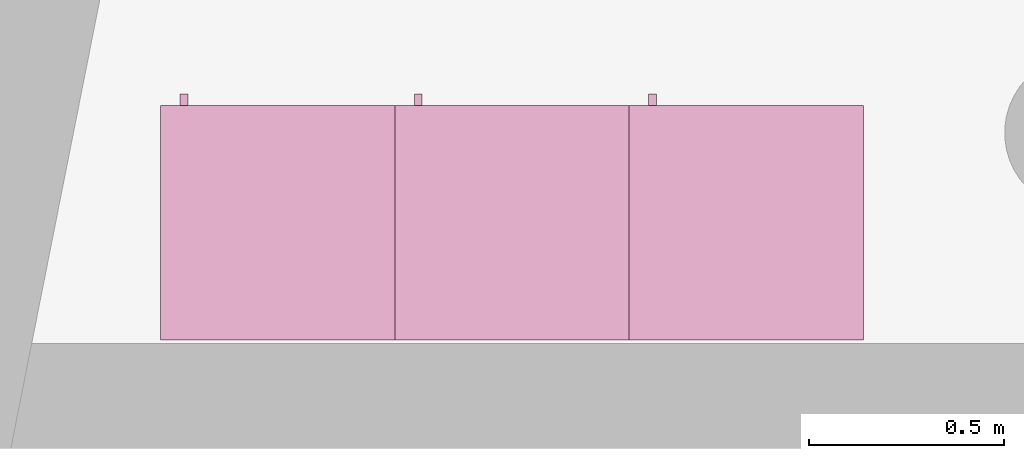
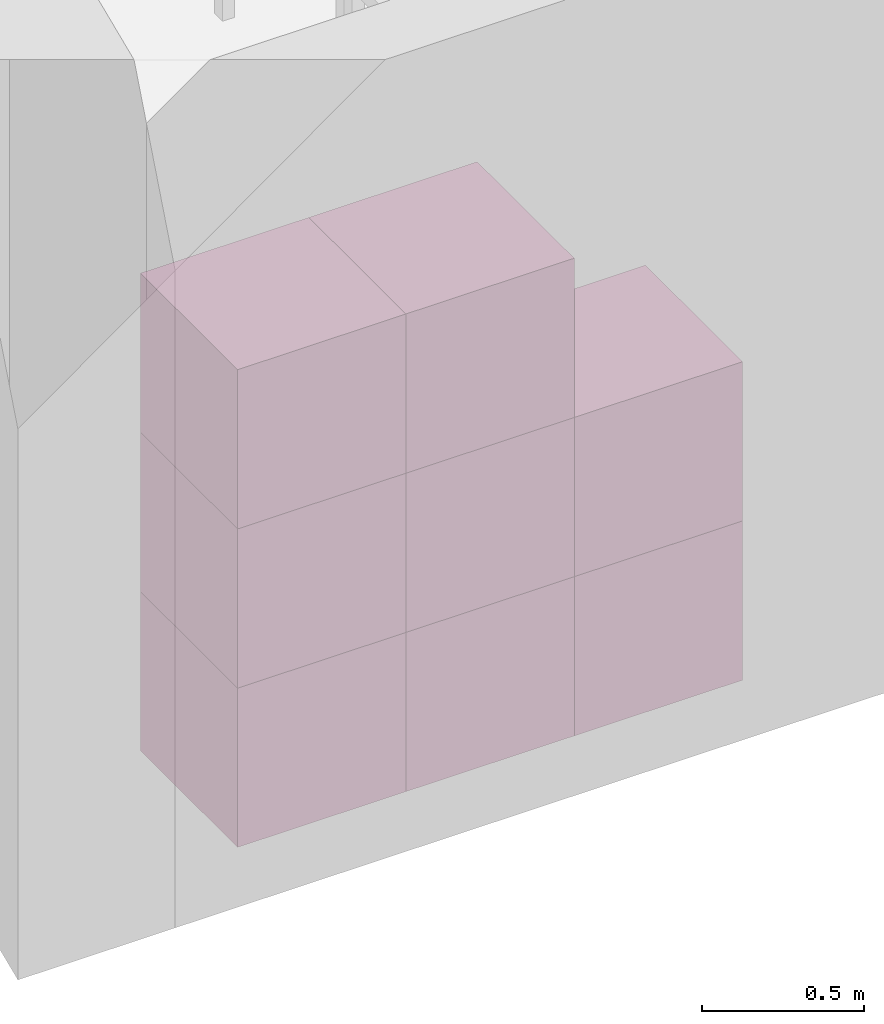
"""IFC4 building model written with IfcOpenShell, lengths in metres."""

from ifc_helpers import new_model, entity, si_unit, converted_unit, derived_unit, frame, origin, place, context, subcontext, project, spatial, faceted_brep, element, save


model = new_model("IFC4")

# Units and contexts
model_context = context("Model", 3, precision=1e-05, world=origin())
body_context = subcontext(model_context, "Body", "Model", "MODEL_VIEW")
ifc_project = project(units=[si_unit("LENGTHUNIT", "METRE"), si_unit("AREAUNIT", "SQUARE_METRE"), si_unit("VOLUMEUNIT", "CUBIC_METRE"), si_unit("MASSUNIT", "GRAM", prefix="KILO"), converted_unit("PLANEANGLEUNIT", "DEGREE", entity("IfcPlaneAngleMeasure", 0.0174532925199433), si_unit("PLANEANGLEUNIT", "RADIAN"), dimensions=[0, 0, 0, 0, 0, 0, 0]), derived_unit("THERMALTRANSMITTANCEUNIT", [(si_unit("POWERUNIT", "WATT"), 1), (si_unit("THERMODYNAMICTEMPERATUREUNIT", "KELVIN"), -1), (si_unit("LENGTHUNIT", "METRE"), -2)]), derived_unit("VOLUMETRICFLOWRATEUNIT", [(si_unit("LENGTHUNIT", "METRE"), 3), (converted_unit("TIMEUNIT", "hour", entity("IfcTimeMeasure", 3600.0), si_unit("TIMEUNIT", "SECOND"), dimensions=[0, 0, 1, 0, 0, 0, 0]), -1), (si_unit("LENGTHUNIT", "METRE"), -1)])], contexts=[model_context])

# Building, storeys
building_placement = place(None, origin())
building = spatial("IfcBuilding", under=ifc_project, at=building_placement, Name="HABITATGE PLURIFAMILIAR", CompositionType="ELEMENT")
storey_1_placement = place(building_placement, frame((0.0, 0.0, 15.28)))
storey_1 = spatial("IfcBuildingStorey", under=building, at=storey_1_placement, Name="PLANTA QUARTA", CompositionType="ELEMENT", Elevation=15.28)
storey_2_placement = place(storey_1_placement, frame((0.0, 0.0, 12.27)))
storey_2 = spatial("IfcBuildingStorey", under=storey_1, at=storey_2_placement, Name="NOU", CompositionType="PARTIAL")

# Furniture
furniture_1_placement = place(storey_2_placement, frame((399.82527037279, 13.1194598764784, -12.37)))
element("IfcFurniture", 1, at=furniture_1_placement, inside=storey_2, Name="Armai 60x60x60_P4", context=body_context, shape_type="Brep", body=[
    faceted_brep([(0.0, 0.6, 0.02), (0.0, 0.6, 0.0), (0.6, 0.6, 0.0), (0.6, 0.6, 0.02), (0.6, 0.0, 0.0), (0.6, 0.0, 0.02), (0.0, 0.0, 0.0), (0.0, 0.0, 0.02)], [[[0, 1, 2, 3]], [[3, 2, 4, 5]], [[5, 4, 6, 7]], [[7, 6, 1, 0]], [[0, 3, 5, 7]], [[1, 6, 4, 2]]], orient=[[False], [False], [False], [False], [False], [False]]),
    faceted_brep([(0.580000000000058, 0.0, 0.58), (0.580000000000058, 0.0200000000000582, 0.58), (0.580000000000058, 0.0200000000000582, 0.02), (0.580000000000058, 0.0, 0.02), (0.0200000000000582, 0.0200000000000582, 0.02), (0.0200000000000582, 0.0, 0.02), (0.0200000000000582, 0.0200000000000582, 0.58), (0.0200000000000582, 0.0, 0.58)], [[[0, 1, 2, 3]], [[3, 2, 4, 5]], [[5, 4, 6, 7]], [[7, 6, 1, 0]], [[0, 3, 5, 7]], [[1, 6, 4, 2]]], orient=[[False], [False], [False], [False], [False], [False]]),
    faceted_brep([(0.0200000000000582, 0.6, 0.58), (0.0, 0.6, 0.58), (0.0, 0.6, 0.02), (0.0200000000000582, 0.6, 0.02), (0.0, 0.0, 0.02), (0.0200000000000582, 0.0, 0.02), (0.0, 0.0, 0.58), (0.0200000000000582, 0.0, 0.58)], [[[0, 1, 2, 3]], [[3, 2, 4, 5]], [[5, 4, 6, 7]], [[7, 6, 1, 0]], [[0, 3, 5, 7]], [[1, 6, 4, 2]]], orient=[[False], [False], [False], [False], [False], [False]]),
    faceted_brep([(0.0, 0.58, 0.58), (0.0, 0.6, 0.58), (0.0, 0.6, 0.02), (0.0, 0.58, 0.02), (0.02, 0.6, 0.02), (0.02, 0.58, 0.02), (0.02, 0.6, 0.58), (0.02, 0.58, 0.58)], [[[0, 1, 2, 3]], [[3, 2, 4, 5]], [[5, 4, 6, 7]], [[7, 6, 1, 0]], [[0, 3, 5, 7]], [[1, 6, 4, 2]]], orient=[[False], [False], [False], [False], [False], [False]]),
    faceted_brep([(0.6, 0.6, 0.58), (0.58, 0.6, 0.58), (0.58, 0.6, 0.02), (0.6, 0.6, 0.02), (0.58, 0.0, 0.02), (0.6, 0.0, 0.02), (0.58, 0.0, 0.58), (0.6, 0.0, 0.58)], [[[0, 1, 2, 3]], [[3, 2, 4, 5]], [[5, 4, 6, 7]], [[7, 6, 1, 0]], [[0, 3, 5, 7]], [[1, 6, 4, 2]]], orient=[[False], [False], [False], [False], [False], [False]]),
    faceted_brep([(0.0, 0.600000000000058, 0.6), (0.0, 0.600000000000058, 0.58), (0.600000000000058, 0.600000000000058, 0.58), (0.600000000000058, 0.600000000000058, 0.6), (0.600000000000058, 0.0, 0.58), (0.600000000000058, 0.0, 0.6), (0.0, 0.0, 0.58), (0.0, 0.0, 0.6)], [[[0, 1, 2, 3]], [[3, 2, 4, 5]], [[5, 4, 6, 7]], [[7, 6, 1, 0]], [[0, 3, 5, 7]], [[1, 6, 4, 2]]], orient=[[False], [False], [False], [False], [False], [False]]),
    faceted_brep([(0.580000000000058, 0.580000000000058, 0.58), (0.580000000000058, 0.600000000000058, 0.58), (0.580000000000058, 0.600000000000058, 0.02), (0.580000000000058, 0.580000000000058, 0.02), (0.02, 0.600000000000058, 0.02), (0.02, 0.580000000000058, 0.02), (0.02, 0.600000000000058, 0.58), (0.02, 0.580000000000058, 0.58)], [[[0, 1, 2, 3]], [[3, 2, 4, 5]], [[5, 4, 6, 7]], [[7, 6, 1, 0]], [[0, 3, 5, 7]], [[1, 6, 4, 2]]], orient=[[False], [False], [False], [False], [False], [False]]),
    faceted_brep([(0.0700000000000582, 0.600000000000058, 0.358064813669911), (0.0700000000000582, 0.630000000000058, 0.358064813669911), (0.0700000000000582, 0.630000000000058, 0.258064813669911), (0.0700000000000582, 0.600000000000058, 0.258064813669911), (0.0500000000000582, 0.630000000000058, 0.258064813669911), (0.0500000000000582, 0.600000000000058, 0.258064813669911), (0.0500000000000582, 0.630000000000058, 0.358064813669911), (0.0500000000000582, 0.600000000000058, 0.358064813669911)], [[[0, 1, 2, 3]], [[3, 2, 4, 5]], [[5, 4, 6, 7]], [[7, 6, 1, 0]], [[0, 3, 5, 7]], [[1, 6, 4, 2]]], orient=[[False], [False], [False], [False], [False], [False]]),
])
furniture_2_placement = place(storey_2_placement, frame((399.82527037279, 13.1194598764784, -11.77)))
element("IfcFurniture", 2, at=furniture_2_placement, inside=storey_2, Name="Armai 60x60x60_P4", context=body_context, shape_type="Brep", body=[
    faceted_brep([(0.0, 0.6, 0.02), (0.0, 0.6, 0.0), (0.6, 0.6, 0.0), (0.6, 0.6, 0.02), (0.6, 0.0, 0.0), (0.6, 0.0, 0.02), (0.0, 0.0, 0.0), (0.0, 0.0, 0.02)], [[[0, 1, 2, 3]], [[3, 2, 4, 5]], [[5, 4, 6, 7]], [[7, 6, 1, 0]], [[0, 3, 5, 7]], [[1, 6, 4, 2]]], orient=[[False], [False], [False], [False], [False], [False]]),
    faceted_brep([(0.580000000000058, 0.0, 0.58), (0.580000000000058, 0.0200000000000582, 0.58), (0.580000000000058, 0.0200000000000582, 0.02), (0.580000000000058, 0.0, 0.02), (0.0200000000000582, 0.0200000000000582, 0.02), (0.0200000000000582, 0.0, 0.02), (0.0200000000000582, 0.0200000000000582, 0.58), (0.0200000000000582, 0.0, 0.58)], [[[0, 1, 2, 3]], [[3, 2, 4, 5]], [[5, 4, 6, 7]], [[7, 6, 1, 0]], [[0, 3, 5, 7]], [[1, 6, 4, 2]]], orient=[[False], [False], [False], [False], [False], [False]]),
    faceted_brep([(0.0200000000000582, 0.6, 0.58), (0.0, 0.6, 0.58), (0.0, 0.6, 0.02), (0.0200000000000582, 0.6, 0.02), (0.0, 0.0, 0.02), (0.0200000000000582, 0.0, 0.02), (0.0, 0.0, 0.58), (0.0200000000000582, 0.0, 0.58)], [[[0, 1, 2, 3]], [[3, 2, 4, 5]], [[5, 4, 6, 7]], [[7, 6, 1, 0]], [[0, 3, 5, 7]], [[1, 6, 4, 2]]], orient=[[False], [False], [False], [False], [False], [False]]),
    faceted_brep([(0.0, 0.58, 0.58), (0.0, 0.6, 0.58), (0.0, 0.6, 0.02), (0.0, 0.58, 0.02), (0.02, 0.6, 0.02), (0.02, 0.58, 0.02), (0.02, 0.6, 0.58), (0.02, 0.58, 0.58)], [[[0, 1, 2, 3]], [[3, 2, 4, 5]], [[5, 4, 6, 7]], [[7, 6, 1, 0]], [[0, 3, 5, 7]], [[1, 6, 4, 2]]], orient=[[False], [False], [False], [False], [False], [False]]),
    faceted_brep([(0.6, 0.6, 0.58), (0.58, 0.6, 0.58), (0.58, 0.6, 0.02), (0.6, 0.6, 0.02), (0.58, 0.0, 0.02), (0.6, 0.0, 0.02), (0.58, 0.0, 0.58), (0.6, 0.0, 0.58)], [[[0, 1, 2, 3]], [[3, 2, 4, 5]], [[5, 4, 6, 7]], [[7, 6, 1, 0]], [[0, 3, 5, 7]], [[1, 6, 4, 2]]], orient=[[False], [False], [False], [False], [False], [False]]),
    faceted_brep([(0.0, 0.600000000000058, 0.6), (0.0, 0.600000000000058, 0.58), (0.600000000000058, 0.600000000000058, 0.58), (0.600000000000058, 0.600000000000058, 0.6), (0.600000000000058, 0.0, 0.58), (0.600000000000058, 0.0, 0.6), (0.0, 0.0, 0.58), (0.0, 0.0, 0.6)], [[[0, 1, 2, 3]], [[3, 2, 4, 5]], [[5, 4, 6, 7]], [[7, 6, 1, 0]], [[0, 3, 5, 7]], [[1, 6, 4, 2]]], orient=[[False], [False], [False], [False], [False], [False]]),
    faceted_brep([(0.580000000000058, 0.580000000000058, 0.58), (0.580000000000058, 0.600000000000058, 0.58), (0.580000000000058, 0.600000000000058, 0.02), (0.580000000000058, 0.580000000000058, 0.02), (0.02, 0.600000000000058, 0.02), (0.02, 0.580000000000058, 0.02), (0.02, 0.600000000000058, 0.58), (0.02, 0.580000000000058, 0.58)], [[[0, 1, 2, 3]], [[3, 2, 4, 5]], [[5, 4, 6, 7]], [[7, 6, 1, 0]], [[0, 3, 5, 7]], [[1, 6, 4, 2]]], orient=[[False], [False], [False], [False], [False], [False]]),
    faceted_brep([(0.0700000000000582, 0.600000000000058, 0.358064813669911), (0.0700000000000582, 0.630000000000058, 0.358064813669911), (0.0700000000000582, 0.630000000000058, 0.258064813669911), (0.0700000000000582, 0.600000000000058, 0.258064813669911), (0.0500000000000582, 0.630000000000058, 0.258064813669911), (0.0500000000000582, 0.600000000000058, 0.258064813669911), (0.0500000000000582, 0.630000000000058, 0.358064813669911), (0.0500000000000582, 0.600000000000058, 0.358064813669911)], [[[0, 1, 2, 3]], [[3, 2, 4, 5]], [[5, 4, 6, 7]], [[7, 6, 1, 0]], [[0, 3, 5, 7]], [[1, 6, 4, 2]]], orient=[[False], [False], [False], [False], [False], [False]]),
])
furniture_3_placement = place(storey_2_placement, frame((399.22527037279, 13.1194598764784, -12.37)))
element("IfcFurniture", 3, at=furniture_3_placement, inside=storey_2, Name="Armai 60x60x60_P4", context=body_context, shape_type="Brep", body=[
    faceted_brep([(0.0, 0.6, 0.02), (0.0, 0.6, 0.0), (0.6, 0.6, 0.0), (0.6, 0.6, 0.02), (0.6, 0.0, 0.0), (0.6, 0.0, 0.02), (0.0, 0.0, 0.0), (0.0, 0.0, 0.02)], [[[0, 1, 2, 3]], [[3, 2, 4, 5]], [[5, 4, 6, 7]], [[7, 6, 1, 0]], [[0, 3, 5, 7]], [[1, 6, 4, 2]]], orient=[[False], [False], [False], [False], [False], [False]]),
    faceted_brep([(0.580000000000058, 0.0, 0.58), (0.580000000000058, 0.0200000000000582, 0.58), (0.580000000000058, 0.0200000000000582, 0.02), (0.580000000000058, 0.0, 0.02), (0.0200000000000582, 0.0200000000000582, 0.02), (0.0200000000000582, 0.0, 0.02), (0.0200000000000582, 0.0200000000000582, 0.58), (0.0200000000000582, 0.0, 0.58)], [[[0, 1, 2, 3]], [[3, 2, 4, 5]], [[5, 4, 6, 7]], [[7, 6, 1, 0]], [[0, 3, 5, 7]], [[1, 6, 4, 2]]], orient=[[False], [False], [False], [False], [False], [False]]),
    faceted_brep([(0.0200000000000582, 0.6, 0.58), (0.0, 0.6, 0.58), (0.0, 0.6, 0.02), (0.0200000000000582, 0.6, 0.02), (0.0, 0.0, 0.02), (0.0200000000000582, 0.0, 0.02), (0.0, 0.0, 0.58), (0.0200000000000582, 0.0, 0.58)], [[[0, 1, 2, 3]], [[3, 2, 4, 5]], [[5, 4, 6, 7]], [[7, 6, 1, 0]], [[0, 3, 5, 7]], [[1, 6, 4, 2]]], orient=[[False], [False], [False], [False], [False], [False]]),
    faceted_brep([(0.0, 0.58, 0.58), (0.0, 0.6, 0.58), (0.0, 0.6, 0.02), (0.0, 0.58, 0.02), (0.02, 0.6, 0.02), (0.02, 0.58, 0.02), (0.02, 0.6, 0.58), (0.02, 0.58, 0.58)], [[[0, 1, 2, 3]], [[3, 2, 4, 5]], [[5, 4, 6, 7]], [[7, 6, 1, 0]], [[0, 3, 5, 7]], [[1, 6, 4, 2]]], orient=[[False], [False], [False], [False], [False], [False]]),
    faceted_brep([(0.6, 0.6, 0.58), (0.58, 0.6, 0.58), (0.58, 0.6, 0.02), (0.6, 0.6, 0.02), (0.58, 0.0, 0.02), (0.6, 0.0, 0.02), (0.58, 0.0, 0.58), (0.6, 0.0, 0.58)], [[[0, 1, 2, 3]], [[3, 2, 4, 5]], [[5, 4, 6, 7]], [[7, 6, 1, 0]], [[0, 3, 5, 7]], [[1, 6, 4, 2]]], orient=[[False], [False], [False], [False], [False], [False]]),
    faceted_brep([(0.0, 0.600000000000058, 0.6), (0.0, 0.600000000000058, 0.58), (0.600000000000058, 0.600000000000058, 0.58), (0.600000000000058, 0.600000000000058, 0.6), (0.600000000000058, 0.0, 0.58), (0.600000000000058, 0.0, 0.6), (0.0, 0.0, 0.58), (0.0, 0.0, 0.6)], [[[0, 1, 2, 3]], [[3, 2, 4, 5]], [[5, 4, 6, 7]], [[7, 6, 1, 0]], [[0, 3, 5, 7]], [[1, 6, 4, 2]]], orient=[[False], [False], [False], [False], [False], [False]]),
    faceted_brep([(0.580000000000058, 0.580000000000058, 0.58), (0.580000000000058, 0.600000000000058, 0.58), (0.580000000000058, 0.600000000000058, 0.02), (0.580000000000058, 0.580000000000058, 0.02), (0.02, 0.600000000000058, 0.02), (0.02, 0.580000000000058, 0.02), (0.02, 0.600000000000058, 0.58), (0.02, 0.580000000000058, 0.58)], [[[0, 1, 2, 3]], [[3, 2, 4, 5]], [[5, 4, 6, 7]], [[7, 6, 1, 0]], [[0, 3, 5, 7]], [[1, 6, 4, 2]]], orient=[[False], [False], [False], [False], [False], [False]]),
    faceted_brep([(0.0700000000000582, 0.600000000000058, 0.358064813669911), (0.0700000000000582, 0.630000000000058, 0.358064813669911), (0.0700000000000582, 0.630000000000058, 0.258064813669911), (0.0700000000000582, 0.600000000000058, 0.258064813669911), (0.0500000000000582, 0.630000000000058, 0.258064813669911), (0.0500000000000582, 0.600000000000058, 0.258064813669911), (0.0500000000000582, 0.630000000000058, 0.358064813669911), (0.0500000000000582, 0.600000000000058, 0.358064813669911)], [[[0, 1, 2, 3]], [[3, 2, 4, 5]], [[5, 4, 6, 7]], [[7, 6, 1, 0]], [[0, 3, 5, 7]], [[1, 6, 4, 2]]], orient=[[False], [False], [False], [False], [False], [False]]),
])
furniture_4_placement = place(storey_2_placement, frame((399.22527037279, 13.1194598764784, -11.77)))
element("IfcFurniture", 4, at=furniture_4_placement, inside=storey_2, Name="Armai 60x60x60_P4", context=body_context, shape_type="Brep", body=[
    faceted_brep([(0.0, 0.6, 0.02), (0.0, 0.6, 0.0), (0.6, 0.6, 0.0), (0.6, 0.6, 0.02), (0.6, 0.0, 0.0), (0.6, 0.0, 0.02), (0.0, 0.0, 0.0), (0.0, 0.0, 0.02)], [[[0, 1, 2, 3]], [[3, 2, 4, 5]], [[5, 4, 6, 7]], [[7, 6, 1, 0]], [[0, 3, 5, 7]], [[1, 6, 4, 2]]], orient=[[False], [False], [False], [False], [False], [False]]),
    faceted_brep([(0.580000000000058, 0.0, 0.58), (0.580000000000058, 0.0200000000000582, 0.58), (0.580000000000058, 0.0200000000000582, 0.02), (0.580000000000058, 0.0, 0.02), (0.0200000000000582, 0.0200000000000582, 0.02), (0.0200000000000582, 0.0, 0.02), (0.0200000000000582, 0.0200000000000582, 0.58), (0.0200000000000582, 0.0, 0.58)], [[[0, 1, 2, 3]], [[3, 2, 4, 5]], [[5, 4, 6, 7]], [[7, 6, 1, 0]], [[0, 3, 5, 7]], [[1, 6, 4, 2]]], orient=[[False], [False], [False], [False], [False], [False]]),
    faceted_brep([(0.0200000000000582, 0.6, 0.58), (0.0, 0.6, 0.58), (0.0, 0.6, 0.02), (0.0200000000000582, 0.6, 0.02), (0.0, 0.0, 0.02), (0.0200000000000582, 0.0, 0.02), (0.0, 0.0, 0.58), (0.0200000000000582, 0.0, 0.58)], [[[0, 1, 2, 3]], [[3, 2, 4, 5]], [[5, 4, 6, 7]], [[7, 6, 1, 0]], [[0, 3, 5, 7]], [[1, 6, 4, 2]]], orient=[[False], [False], [False], [False], [False], [False]]),
    faceted_brep([(0.0, 0.58, 0.58), (0.0, 0.6, 0.58), (0.0, 0.6, 0.02), (0.0, 0.58, 0.02), (0.02, 0.6, 0.02), (0.02, 0.58, 0.02), (0.02, 0.6, 0.58), (0.02, 0.58, 0.58)], [[[0, 1, 2, 3]], [[3, 2, 4, 5]], [[5, 4, 6, 7]], [[7, 6, 1, 0]], [[0, 3, 5, 7]], [[1, 6, 4, 2]]], orient=[[False], [False], [False], [False], [False], [False]]),
    faceted_brep([(0.6, 0.6, 0.58), (0.58, 0.6, 0.58), (0.58, 0.6, 0.02), (0.6, 0.6, 0.02), (0.58, 0.0, 0.02), (0.6, 0.0, 0.02), (0.58, 0.0, 0.58), (0.6, 0.0, 0.58)], [[[0, 1, 2, 3]], [[3, 2, 4, 5]], [[5, 4, 6, 7]], [[7, 6, 1, 0]], [[0, 3, 5, 7]], [[1, 6, 4, 2]]], orient=[[False], [False], [False], [False], [False], [False]]),
    faceted_brep([(0.0, 0.600000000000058, 0.6), (0.0, 0.600000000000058, 0.58), (0.600000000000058, 0.600000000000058, 0.58), (0.600000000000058, 0.600000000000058, 0.6), (0.600000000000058, 0.0, 0.58), (0.600000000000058, 0.0, 0.6), (0.0, 0.0, 0.58), (0.0, 0.0, 0.6)], [[[0, 1, 2, 3]], [[3, 2, 4, 5]], [[5, 4, 6, 7]], [[7, 6, 1, 0]], [[0, 3, 5, 7]], [[1, 6, 4, 2]]], orient=[[False], [False], [False], [False], [False], [False]]),
    faceted_brep([(0.580000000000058, 0.580000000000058, 0.58), (0.580000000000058, 0.600000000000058, 0.58), (0.580000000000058, 0.600000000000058, 0.02), (0.580000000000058, 0.580000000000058, 0.02), (0.02, 0.600000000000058, 0.02), (0.02, 0.580000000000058, 0.02), (0.02, 0.600000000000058, 0.58), (0.02, 0.580000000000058, 0.58)], [[[0, 1, 2, 3]], [[3, 2, 4, 5]], [[5, 4, 6, 7]], [[7, 6, 1, 0]], [[0, 3, 5, 7]], [[1, 6, 4, 2]]], orient=[[False], [False], [False], [False], [False], [False]]),
    faceted_brep([(0.0700000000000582, 0.600000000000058, 0.358064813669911), (0.0700000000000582, 0.630000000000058, 0.358064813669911), (0.0700000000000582, 0.630000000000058, 0.258064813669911), (0.0700000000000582, 0.600000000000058, 0.258064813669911), (0.0500000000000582, 0.630000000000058, 0.258064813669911), (0.0500000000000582, 0.600000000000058, 0.258064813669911), (0.0500000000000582, 0.630000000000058, 0.358064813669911), (0.0500000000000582, 0.600000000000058, 0.358064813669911)], [[[0, 1, 2, 3]], [[3, 2, 4, 5]], [[5, 4, 6, 7]], [[7, 6, 1, 0]], [[0, 3, 5, 7]], [[1, 6, 4, 2]]], orient=[[False], [False], [False], [False], [False], [False]]),
])
furniture_5_placement = place(storey_2_placement, frame((399.22527037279, 13.1194598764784, -11.17)))
element("IfcFurniture", 5, at=furniture_5_placement, inside=storey_2, Name="Armai 60x60x60_P4", context=body_context, shape_type="Brep", body=[
    faceted_brep([(0.0, 0.6, 0.02), (0.0, 0.6, 0.0), (0.6, 0.6, 0.0), (0.6, 0.6, 0.02), (0.6, 0.0, 0.0), (0.6, 0.0, 0.02), (0.0, 0.0, 0.0), (0.0, 0.0, 0.02)], [[[0, 1, 2, 3]], [[3, 2, 4, 5]], [[5, 4, 6, 7]], [[7, 6, 1, 0]], [[0, 3, 5, 7]], [[1, 6, 4, 2]]], orient=[[False], [False], [False], [False], [False], [False]]),
    faceted_brep([(0.580000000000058, 0.0, 0.58), (0.580000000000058, 0.0200000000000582, 0.58), (0.580000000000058, 0.0200000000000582, 0.02), (0.580000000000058, 0.0, 0.02), (0.0200000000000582, 0.0200000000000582, 0.02), (0.0200000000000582, 0.0, 0.02), (0.0200000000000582, 0.0200000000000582, 0.58), (0.0200000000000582, 0.0, 0.58)], [[[0, 1, 2, 3]], [[3, 2, 4, 5]], [[5, 4, 6, 7]], [[7, 6, 1, 0]], [[0, 3, 5, 7]], [[1, 6, 4, 2]]], orient=[[False], [False], [False], [False], [False], [False]]),
    faceted_brep([(0.0200000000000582, 0.6, 0.58), (0.0, 0.6, 0.58), (0.0, 0.6, 0.02), (0.0200000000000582, 0.6, 0.02), (0.0, 0.0, 0.02), (0.0200000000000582, 0.0, 0.02), (0.0, 0.0, 0.58), (0.0200000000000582, 0.0, 0.58)], [[[0, 1, 2, 3]], [[3, 2, 4, 5]], [[5, 4, 6, 7]], [[7, 6, 1, 0]], [[0, 3, 5, 7]], [[1, 6, 4, 2]]], orient=[[False], [False], [False], [False], [False], [False]]),
    faceted_brep([(0.0, 0.58, 0.58), (0.0, 0.6, 0.58), (0.0, 0.6, 0.02), (0.0, 0.58, 0.02), (0.02, 0.6, 0.02), (0.02, 0.58, 0.02), (0.02, 0.6, 0.58), (0.02, 0.58, 0.58)], [[[0, 1, 2, 3]], [[3, 2, 4, 5]], [[5, 4, 6, 7]], [[7, 6, 1, 0]], [[0, 3, 5, 7]], [[1, 6, 4, 2]]], orient=[[False], [False], [False], [False], [False], [False]]),
    faceted_brep([(0.6, 0.6, 0.58), (0.58, 0.6, 0.58), (0.58, 0.6, 0.02), (0.6, 0.6, 0.02), (0.58, 0.0, 0.02), (0.6, 0.0, 0.02), (0.58, 0.0, 0.58), (0.6, 0.0, 0.58)], [[[0, 1, 2, 3]], [[3, 2, 4, 5]], [[5, 4, 6, 7]], [[7, 6, 1, 0]], [[0, 3, 5, 7]], [[1, 6, 4, 2]]], orient=[[False], [False], [False], [False], [False], [False]]),
    faceted_brep([(0.0, 0.600000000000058, 0.6), (0.0, 0.600000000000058, 0.58), (0.600000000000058, 0.600000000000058, 0.58), (0.600000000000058, 0.600000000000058, 0.6), (0.600000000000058, 0.0, 0.58), (0.600000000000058, 0.0, 0.6), (0.0, 0.0, 0.58), (0.0, 0.0, 0.6)], [[[0, 1, 2, 3]], [[3, 2, 4, 5]], [[5, 4, 6, 7]], [[7, 6, 1, 0]], [[0, 3, 5, 7]], [[1, 6, 4, 2]]], orient=[[False], [False], [False], [False], [False], [False]]),
    faceted_brep([(0.580000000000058, 0.580000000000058, 0.58), (0.580000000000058, 0.600000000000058, 0.58), (0.580000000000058, 0.600000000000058, 0.02), (0.580000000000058, 0.580000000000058, 0.02), (0.02, 0.600000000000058, 0.02), (0.02, 0.580000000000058, 0.02), (0.02, 0.600000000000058, 0.58), (0.02, 0.580000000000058, 0.58)], [[[0, 1, 2, 3]], [[3, 2, 4, 5]], [[5, 4, 6, 7]], [[7, 6, 1, 0]], [[0, 3, 5, 7]], [[1, 6, 4, 2]]], orient=[[False], [False], [False], [False], [False], [False]]),
    faceted_brep([(0.0700000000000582, 0.600000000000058, 0.358064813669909), (0.0700000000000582, 0.630000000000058, 0.358064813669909), (0.0700000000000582, 0.630000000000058, 0.258064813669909), (0.0700000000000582, 0.600000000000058, 0.258064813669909), (0.0500000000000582, 0.630000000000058, 0.258064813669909), (0.0500000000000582, 0.600000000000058, 0.258064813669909), (0.0500000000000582, 0.630000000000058, 0.358064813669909), (0.0500000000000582, 0.600000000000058, 0.358064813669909)], [[[0, 1, 2, 3]], [[3, 2, 4, 5]], [[5, 4, 6, 7]], [[7, 6, 1, 0]], [[0, 3, 5, 7]], [[1, 6, 4, 2]]], orient=[[False], [False], [False], [False], [False], [False]]),
])
furniture_6_placement = place(storey_2_placement, frame((398.62527037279, 13.1194598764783, -12.37)))
element("IfcFurniture", 6, at=furniture_6_placement, inside=storey_2, Name="Armai 60x60x60_P4", context=body_context, shape_type="Brep", body=[
    faceted_brep([(0.0, 0.6, 0.02), (0.0, 0.6, 0.0), (0.6, 0.6, 0.0), (0.6, 0.6, 0.02), (0.6, 0.0, 0.0), (0.6, 0.0, 0.02), (0.0, 0.0, 0.0), (0.0, 0.0, 0.02)], [[[0, 1, 2, 3]], [[3, 2, 4, 5]], [[5, 4, 6, 7]], [[7, 6, 1, 0]], [[0, 3, 5, 7]], [[1, 6, 4, 2]]], orient=[[False], [False], [False], [False], [False], [False]]),
    faceted_brep([(0.580000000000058, 0.0, 0.58), (0.580000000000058, 0.0200000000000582, 0.58), (0.580000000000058, 0.0200000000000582, 0.02), (0.580000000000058, 0.0, 0.02), (0.0200000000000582, 0.0200000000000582, 0.02), (0.0200000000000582, 0.0, 0.02), (0.0200000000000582, 0.0200000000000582, 0.58), (0.0200000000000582, 0.0, 0.58)], [[[0, 1, 2, 3]], [[3, 2, 4, 5]], [[5, 4, 6, 7]], [[7, 6, 1, 0]], [[0, 3, 5, 7]], [[1, 6, 4, 2]]], orient=[[False], [False], [False], [False], [False], [False]]),
    faceted_brep([(0.0200000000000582, 0.6, 0.58), (0.0, 0.6, 0.58), (0.0, 0.6, 0.02), (0.0200000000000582, 0.6, 0.02), (0.0, 0.0, 0.02), (0.0200000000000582, 0.0, 0.02), (0.0, 0.0, 0.58), (0.0200000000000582, 0.0, 0.58)], [[[0, 1, 2, 3]], [[3, 2, 4, 5]], [[5, 4, 6, 7]], [[7, 6, 1, 0]], [[0, 3, 5, 7]], [[1, 6, 4, 2]]], orient=[[False], [False], [False], [False], [False], [False]]),
    faceted_brep([(0.0, 0.58, 0.58), (0.0, 0.6, 0.58), (0.0, 0.6, 0.02), (0.0, 0.58, 0.02), (0.02, 0.6, 0.02), (0.02, 0.58, 0.02), (0.02, 0.6, 0.58), (0.02, 0.58, 0.58)], [[[0, 1, 2, 3]], [[3, 2, 4, 5]], [[5, 4, 6, 7]], [[7, 6, 1, 0]], [[0, 3, 5, 7]], [[1, 6, 4, 2]]], orient=[[False], [False], [False], [False], [False], [False]]),
    faceted_brep([(0.6, 0.6, 0.58), (0.58, 0.6, 0.58), (0.58, 0.6, 0.02), (0.6, 0.6, 0.02), (0.58, 0.0, 0.02), (0.6, 0.0, 0.02), (0.58, 0.0, 0.58), (0.6, 0.0, 0.58)], [[[0, 1, 2, 3]], [[3, 2, 4, 5]], [[5, 4, 6, 7]], [[7, 6, 1, 0]], [[0, 3, 5, 7]], [[1, 6, 4, 2]]], orient=[[False], [False], [False], [False], [False], [False]]),
    faceted_brep([(0.0, 0.600000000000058, 0.6), (0.0, 0.600000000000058, 0.58), (0.600000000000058, 0.600000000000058, 0.58), (0.600000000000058, 0.600000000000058, 0.6), (0.600000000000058, 0.0, 0.58), (0.600000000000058, 0.0, 0.6), (0.0, 0.0, 0.58), (0.0, 0.0, 0.6)], [[[0, 1, 2, 3]], [[3, 2, 4, 5]], [[5, 4, 6, 7]], [[7, 6, 1, 0]], [[0, 3, 5, 7]], [[1, 6, 4, 2]]], orient=[[False], [False], [False], [False], [False], [False]]),
    faceted_brep([(0.580000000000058, 0.580000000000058, 0.58), (0.580000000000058, 0.600000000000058, 0.58), (0.580000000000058, 0.600000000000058, 0.02), (0.580000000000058, 0.580000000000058, 0.02), (0.02, 0.600000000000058, 0.02), (0.02, 0.580000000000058, 0.02), (0.02, 0.600000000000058, 0.58), (0.02, 0.580000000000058, 0.58)], [[[0, 1, 2, 3]], [[3, 2, 4, 5]], [[5, 4, 6, 7]], [[7, 6, 1, 0]], [[0, 3, 5, 7]], [[1, 6, 4, 2]]], orient=[[False], [False], [False], [False], [False], [False]]),
    faceted_brep([(0.0700000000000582, 0.600000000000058, 0.358064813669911), (0.0700000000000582, 0.630000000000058, 0.358064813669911), (0.0700000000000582, 0.630000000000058, 0.258064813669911), (0.0700000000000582, 0.600000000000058, 0.258064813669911), (0.0500000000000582, 0.630000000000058, 0.258064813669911), (0.0500000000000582, 0.600000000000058, 0.258064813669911), (0.0500000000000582, 0.630000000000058, 0.358064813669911), (0.0500000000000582, 0.600000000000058, 0.358064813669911)], [[[0, 1, 2, 3]], [[3, 2, 4, 5]], [[5, 4, 6, 7]], [[7, 6, 1, 0]], [[0, 3, 5, 7]], [[1, 6, 4, 2]]], orient=[[False], [False], [False], [False], [False], [False]]),
])
furniture_7_placement = place(storey_2_placement, frame((398.62527037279, 13.1194598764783, -11.77)))
element("IfcFurniture", 7, at=furniture_7_placement, inside=storey_2, Name="Armai 60x60x60_P4", context=body_context, shape_type="Brep", body=[
    faceted_brep([(0.0, 0.6, 0.02), (0.0, 0.6, 0.0), (0.6, 0.6, 0.0), (0.6, 0.6, 0.02), (0.6, 0.0, 0.0), (0.6, 0.0, 0.02), (0.0, 0.0, 0.0), (0.0, 0.0, 0.02)], [[[0, 1, 2, 3]], [[3, 2, 4, 5]], [[5, 4, 6, 7]], [[7, 6, 1, 0]], [[0, 3, 5, 7]], [[1, 6, 4, 2]]], orient=[[False], [False], [False], [False], [False], [False]]),
    faceted_brep([(0.580000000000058, 0.0, 0.58), (0.580000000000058, 0.0200000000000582, 0.58), (0.580000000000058, 0.0200000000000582, 0.02), (0.580000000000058, 0.0, 0.02), (0.0200000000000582, 0.0200000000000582, 0.02), (0.0200000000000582, 0.0, 0.02), (0.0200000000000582, 0.0200000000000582, 0.58), (0.0200000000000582, 0.0, 0.58)], [[[0, 1, 2, 3]], [[3, 2, 4, 5]], [[5, 4, 6, 7]], [[7, 6, 1, 0]], [[0, 3, 5, 7]], [[1, 6, 4, 2]]], orient=[[False], [False], [False], [False], [False], [False]]),
    faceted_brep([(0.0200000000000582, 0.6, 0.58), (0.0, 0.6, 0.58), (0.0, 0.6, 0.02), (0.0200000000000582, 0.6, 0.02), (0.0, 0.0, 0.02), (0.0200000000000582, 0.0, 0.02), (0.0, 0.0, 0.58), (0.0200000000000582, 0.0, 0.58)], [[[0, 1, 2, 3]], [[3, 2, 4, 5]], [[5, 4, 6, 7]], [[7, 6, 1, 0]], [[0, 3, 5, 7]], [[1, 6, 4, 2]]], orient=[[False], [False], [False], [False], [False], [False]]),
    faceted_brep([(0.0, 0.58, 0.58), (0.0, 0.6, 0.58), (0.0, 0.6, 0.02), (0.0, 0.58, 0.02), (0.02, 0.6, 0.02), (0.02, 0.58, 0.02), (0.02, 0.6, 0.58), (0.02, 0.58, 0.58)], [[[0, 1, 2, 3]], [[3, 2, 4, 5]], [[5, 4, 6, 7]], [[7, 6, 1, 0]], [[0, 3, 5, 7]], [[1, 6, 4, 2]]], orient=[[False], [False], [False], [False], [False], [False]]),
    faceted_brep([(0.6, 0.6, 0.58), (0.58, 0.6, 0.58), (0.58, 0.6, 0.02), (0.6, 0.6, 0.02), (0.58, 0.0, 0.02), (0.6, 0.0, 0.02), (0.58, 0.0, 0.58), (0.6, 0.0, 0.58)], [[[0, 1, 2, 3]], [[3, 2, 4, 5]], [[5, 4, 6, 7]], [[7, 6, 1, 0]], [[0, 3, 5, 7]], [[1, 6, 4, 2]]], orient=[[False], [False], [False], [False], [False], [False]]),
    faceted_brep([(0.0, 0.600000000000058, 0.6), (0.0, 0.600000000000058, 0.58), (0.600000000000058, 0.600000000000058, 0.58), (0.600000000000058, 0.600000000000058, 0.6), (0.600000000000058, 0.0, 0.58), (0.600000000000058, 0.0, 0.6), (0.0, 0.0, 0.58), (0.0, 0.0, 0.6)], [[[0, 1, 2, 3]], [[3, 2, 4, 5]], [[5, 4, 6, 7]], [[7, 6, 1, 0]], [[0, 3, 5, 7]], [[1, 6, 4, 2]]], orient=[[False], [False], [False], [False], [False], [False]]),
    faceted_brep([(0.580000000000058, 0.580000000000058, 0.58), (0.580000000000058, 0.600000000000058, 0.58), (0.580000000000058, 0.600000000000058, 0.02), (0.580000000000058, 0.580000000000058, 0.02), (0.02, 0.600000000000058, 0.02), (0.02, 0.580000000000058, 0.02), (0.02, 0.600000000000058, 0.58), (0.02, 0.580000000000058, 0.58)], [[[0, 1, 2, 3]], [[3, 2, 4, 5]], [[5, 4, 6, 7]], [[7, 6, 1, 0]], [[0, 3, 5, 7]], [[1, 6, 4, 2]]], orient=[[False], [False], [False], [False], [False], [False]]),
    faceted_brep([(0.0700000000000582, 0.600000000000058, 0.358064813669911), (0.0700000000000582, 0.630000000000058, 0.358064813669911), (0.0700000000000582, 0.630000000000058, 0.258064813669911), (0.0700000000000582, 0.600000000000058, 0.258064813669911), (0.0500000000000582, 0.630000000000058, 0.258064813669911), (0.0500000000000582, 0.600000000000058, 0.258064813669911), (0.0500000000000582, 0.630000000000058, 0.358064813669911), (0.0500000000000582, 0.600000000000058, 0.358064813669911)], [[[0, 1, 2, 3]], [[3, 2, 4, 5]], [[5, 4, 6, 7]], [[7, 6, 1, 0]], [[0, 3, 5, 7]], [[1, 6, 4, 2]]], orient=[[False], [False], [False], [False], [False], [False]]),
])
furniture_8_placement = place(storey_2_placement, frame((398.62527037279, 13.1194598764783, -11.17)))
element("IfcFurniture", 8, at=furniture_8_placement, inside=storey_2, Name="Armai 60x60x60_P4", context=body_context, shape_type="Brep", body=[
    faceted_brep([(0.0, 0.6, 0.02), (0.0, 0.6, 0.0), (0.6, 0.6, 0.0), (0.6, 0.6, 0.02), (0.6, 0.0, 0.0), (0.6, 0.0, 0.02), (0.0, 0.0, 0.0), (0.0, 0.0, 0.02)], [[[0, 1, 2, 3]], [[3, 2, 4, 5]], [[5, 4, 6, 7]], [[7, 6, 1, 0]], [[0, 3, 5, 7]], [[1, 6, 4, 2]]], orient=[[False], [False], [False], [False], [False], [False]]),
    faceted_brep([(0.580000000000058, 0.0, 0.58), (0.580000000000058, 0.0200000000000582, 0.58), (0.580000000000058, 0.0200000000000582, 0.02), (0.580000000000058, 0.0, 0.02), (0.0200000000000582, 0.0200000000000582, 0.02), (0.0200000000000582, 0.0, 0.02), (0.0200000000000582, 0.0200000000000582, 0.58), (0.0200000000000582, 0.0, 0.58)], [[[0, 1, 2, 3]], [[3, 2, 4, 5]], [[5, 4, 6, 7]], [[7, 6, 1, 0]], [[0, 3, 5, 7]], [[1, 6, 4, 2]]], orient=[[False], [False], [False], [False], [False], [False]]),
    faceted_brep([(0.0200000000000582, 0.6, 0.58), (0.0, 0.6, 0.58), (0.0, 0.6, 0.02), (0.0200000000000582, 0.6, 0.02), (0.0, 0.0, 0.02), (0.0200000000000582, 0.0, 0.02), (0.0, 0.0, 0.58), (0.0200000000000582, 0.0, 0.58)], [[[0, 1, 2, 3]], [[3, 2, 4, 5]], [[5, 4, 6, 7]], [[7, 6, 1, 0]], [[0, 3, 5, 7]], [[1, 6, 4, 2]]], orient=[[False], [False], [False], [False], [False], [False]]),
    faceted_brep([(0.0, 0.58, 0.58), (0.0, 0.6, 0.58), (0.0, 0.6, 0.02), (0.0, 0.58, 0.02), (0.02, 0.6, 0.02), (0.02, 0.58, 0.02), (0.02, 0.6, 0.58), (0.02, 0.58, 0.58)], [[[0, 1, 2, 3]], [[3, 2, 4, 5]], [[5, 4, 6, 7]], [[7, 6, 1, 0]], [[0, 3, 5, 7]], [[1, 6, 4, 2]]], orient=[[False], [False], [False], [False], [False], [False]]),
    faceted_brep([(0.6, 0.6, 0.58), (0.58, 0.6, 0.58), (0.58, 0.6, 0.02), (0.6, 0.6, 0.02), (0.58, 0.0, 0.02), (0.6, 0.0, 0.02), (0.58, 0.0, 0.58), (0.6, 0.0, 0.58)], [[[0, 1, 2, 3]], [[3, 2, 4, 5]], [[5, 4, 6, 7]], [[7, 6, 1, 0]], [[0, 3, 5, 7]], [[1, 6, 4, 2]]], orient=[[False], [False], [False], [False], [False], [False]]),
    faceted_brep([(0.0, 0.600000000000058, 0.6), (0.0, 0.600000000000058, 0.58), (0.600000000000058, 0.600000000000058, 0.58), (0.600000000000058, 0.600000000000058, 0.6), (0.600000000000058, 0.0, 0.58), (0.600000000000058, 0.0, 0.6), (0.0, 0.0, 0.58), (0.0, 0.0, 0.6)], [[[0, 1, 2, 3]], [[3, 2, 4, 5]], [[5, 4, 6, 7]], [[7, 6, 1, 0]], [[0, 3, 5, 7]], [[1, 6, 4, 2]]], orient=[[False], [False], [False], [False], [False], [False]]),
    faceted_brep([(0.580000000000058, 0.580000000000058, 0.58), (0.580000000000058, 0.600000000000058, 0.58), (0.580000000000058, 0.600000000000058, 0.02), (0.580000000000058, 0.580000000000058, 0.02), (0.02, 0.600000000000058, 0.02), (0.02, 0.580000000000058, 0.02), (0.02, 0.600000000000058, 0.58), (0.02, 0.580000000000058, 0.58)], [[[0, 1, 2, 3]], [[3, 2, 4, 5]], [[5, 4, 6, 7]], [[7, 6, 1, 0]], [[0, 3, 5, 7]], [[1, 6, 4, 2]]], orient=[[False], [False], [False], [False], [False], [False]]),
    faceted_brep([(0.0700000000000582, 0.600000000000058, 0.358064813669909), (0.0700000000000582, 0.630000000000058, 0.358064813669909), (0.0700000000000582, 0.630000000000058, 0.258064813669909), (0.0700000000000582, 0.600000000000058, 0.258064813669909), (0.0500000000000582, 0.630000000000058, 0.258064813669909), (0.0500000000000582, 0.600000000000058, 0.258064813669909), (0.0500000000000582, 0.630000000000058, 0.358064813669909), (0.0500000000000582, 0.600000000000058, 0.358064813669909)], [[[0, 1, 2, 3]], [[3, 2, 4, 5]], [[5, 4, 6, 7]], [[7, 6, 1, 0]], [[0, 3, 5, 7]], [[1, 6, 4, 2]]], orient=[[False], [False], [False], [False], [False], [False]]),
])

save(model, "model.ifc")
